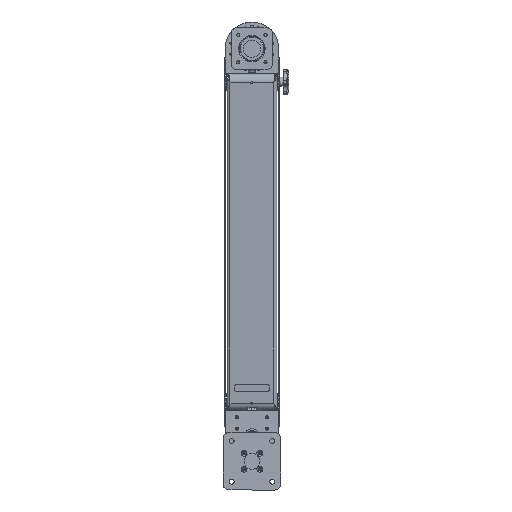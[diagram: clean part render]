
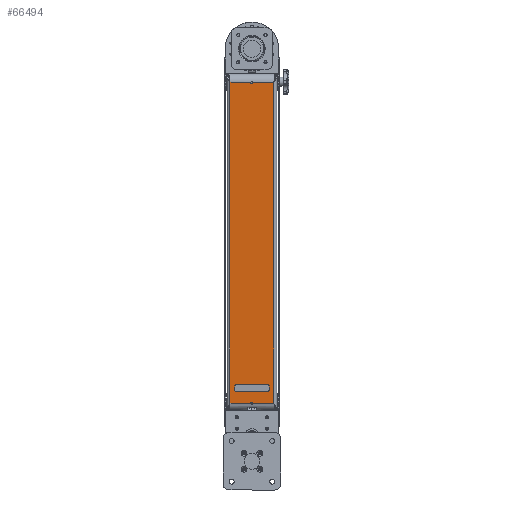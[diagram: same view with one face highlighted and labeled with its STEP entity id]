
A CAD part, front view. The second image highlights one B-rep face of the part: STEP entity #66494.
In plain terms, the highlighted planar face has unit normal (0, -0.996, -0.085) as drawn and (0, -1, 0) by its records, which use the part's own axes.
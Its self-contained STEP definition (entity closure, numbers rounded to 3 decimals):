
#13525 = VERTEX_POINT ( 'NONE', #20662 ) ;
#14126 = EDGE_CURVE ( 'NONE', #13525, #75952, #20777, .T. ) ;
#14127 = ORIENTED_EDGE ( 'NONE', *, *, #66444, .T. ) ;
#14502 = ORIENTED_EDGE ( 'NONE', *, *, #14126, .F. ) ;
#14678 = EDGE_CURVE ( 'NONE', #14680, #13525, #22472, .T. ) ;
#14680 = VERTEX_POINT ( 'NONE', #20803 ) ;
#15605 = VERTEX_POINT ( 'NONE', #24209 ) ;
#15876 = ORIENTED_EDGE ( 'NONE', *, *, #14678, .F. ) ;
#20662 = CARTESIAN_POINT ( 'NONE',  ( -14., 0., -0.094 ) ) ;
#20773 = DIRECTION ( 'NONE',  ( 0., 0., 1. ) ) ;
#20774 = DIRECTION ( 'NONE',  ( 0., -1., 0. ) ) ;
#20775 = CARTESIAN_POINT ( 'NONE',  ( -14., 0., 0. ) ) ;
#20776 = AXIS2_PLACEMENT_3D ( 'NONE', #20775, #20774, #20773 ) ;
#20777 = CIRCLE ( 'NONE', #20776, 0.094 ) ;
#20803 = CARTESIAN_POINT ( 'NONE',  ( -14., 0., -1.912 ) ) ;
#22464 = DIRECTION ( 'NONE',  ( 0., 0., 1. ) ) ;
#22465 = VECTOR ( 'NONE', #22464, 39.37 ) ;
#22466 = CARTESIAN_POINT ( 'NONE',  ( -14., 0., -2.167 ) ) ;
#22472 = LINE ( 'NONE', #22466, #22465 ) ;
#24209 = CARTESIAN_POINT ( 'NONE',  ( -14., 0., 1.912 ) ) ;
#66444 = EDGE_CURVE ( 'NONE', #14680, #66448, #74779, .T. ) ;
#66448 = VERTEX_POINT ( 'NONE', #74873 ) ;
#66450 = ORIENTED_EDGE ( 'NONE', *, *, #66454, .F. ) ;
#66454 = EDGE_CURVE ( 'NONE', #66456, #66448, #74869, .T. ) ;
#66456 = VERTEX_POINT ( 'NONE', #74865 ) ;
#66458 = ORIENTED_EDGE ( 'NONE', *, *, #66460, .F. ) ;
#66460 = EDGE_CURVE ( 'NONE', #66462, #66456, #74864, .T. ) ;
#66462 = VERTEX_POINT ( 'NONE', #74858 ) ;
#66466 = ORIENTED_EDGE ( 'NONE', *, *, #66468, .F. ) ;
#66468 = EDGE_CURVE ( 'NONE', #66470, #66462, #74853, .T. ) ;
#66470 = VERTEX_POINT ( 'NONE', #74845 ) ;
#66473 = ORIENTED_EDGE ( 'NONE', *, *, #66476, .T. ) ;
#66476 = EDGE_CURVE ( 'NONE', #66470, #15605, #74839, .T. ) ;
#66494 = ADVANCED_FACE ( 'NONE', ( #74928 ), #74925, .F. ) ;
#66498 = EDGE_LOOP ( 'NONE', ( #66502, #14502, #15876, #14127, #66450, #66458, #66466, #66473 ) ) ;
#66502 = ORIENTED_EDGE ( 'NONE', *, *, #66505, .F. ) ;
#66505 = EDGE_CURVE ( 'NONE', #75952, #15605, #74913, .T. ) ;
#74772 = DIRECTION ( 'NONE',  ( 1., 0., 0. ) ) ;
#74774 = VECTOR ( 'NONE', #74772, 39.37 ) ;
#74776 = CARTESIAN_POINT ( 'NONE',  ( -14.563, 0., -1.912 ) ) ;
#74779 = LINE ( 'NONE', #74776, #74774 ) ;
#74835 = DIRECTION ( 'NONE',  ( -1., 0., 0. ) ) ;
#74836 = VECTOR ( 'NONE', #74835, 39.37 ) ;
#74838 = CARTESIAN_POINT ( 'NONE',  ( 14.563, 0., 1.912 ) ) ;
#74839 = LINE ( 'NONE', #74838, #74836 ) ;
#74845 = CARTESIAN_POINT ( 'NONE',  ( 14., 0., 1.912 ) ) ;
#74847 = DIRECTION ( 'NONE',  ( 0., 0., -1. ) ) ;
#74849 = VECTOR ( 'NONE', #74847, 39.37 ) ;
#74851 = CARTESIAN_POINT ( 'NONE',  ( 14., 0., -2.167 ) ) ;
#74853 = LINE ( 'NONE', #74851, #74849 ) ;
#74858 = CARTESIAN_POINT ( 'NONE',  ( 14., 0., 0.094 ) ) ;
#74860 = DIRECTION ( 'NONE',  ( 0., 0., -1. ) ) ;
#74861 = DIRECTION ( 'NONE',  ( 0., -1., 0. ) ) ;
#74862 = CARTESIAN_POINT ( 'NONE',  ( 14., 0., 0. ) ) ;
#74863 = AXIS2_PLACEMENT_3D ( 'NONE', #74862, #74861, #74860 ) ;
#74864 = CIRCLE ( 'NONE', #74863, 0.094 ) ;
#74865 = CARTESIAN_POINT ( 'NONE',  ( 14., 0., -0.094 ) ) ;
#74866 = DIRECTION ( 'NONE',  ( 0., 0., -1. ) ) ;
#74867 = VECTOR ( 'NONE', #74866, 39.37 ) ;
#74868 = CARTESIAN_POINT ( 'NONE',  ( 14., 0., -2.167 ) ) ;
#74869 = LINE ( 'NONE', #74868, #74867 ) ;
#74873 = CARTESIAN_POINT ( 'NONE',  ( 14., 0., -1.912 ) ) ;
#74910 = DIRECTION ( 'NONE',  ( 0., 0., 1. ) ) ;
#74911 = VECTOR ( 'NONE', #74910, 39.37 ) ;
#74912 = CARTESIAN_POINT ( 'NONE',  ( -14., 0., -2.167 ) ) ;
#74913 = LINE ( 'NONE', #74912, #74911 ) ;
#74916 = DIRECTION ( 'NONE',  ( 0., 0., 1. ) ) ;
#74918 = DIRECTION ( 'NONE',  ( 0., 1., 0. ) ) ;
#74919 = CARTESIAN_POINT ( 'NONE',  ( -14., 0., 2.167 ) ) ;
#74920 = AXIS2_PLACEMENT_3D ( 'NONE', #74919, #74918, #74916 ) ;
#74925 = PLANE ( 'NONE',  #74920 ) ;
#74928 = FACE_OUTER_BOUND ( 'NONE', #66498, .T. ) ;
#75952 = VERTEX_POINT ( 'NONE', #79035 ) ;
#79035 = CARTESIAN_POINT ( 'NONE',  ( -14., 0., 0.094 ) ) ;
